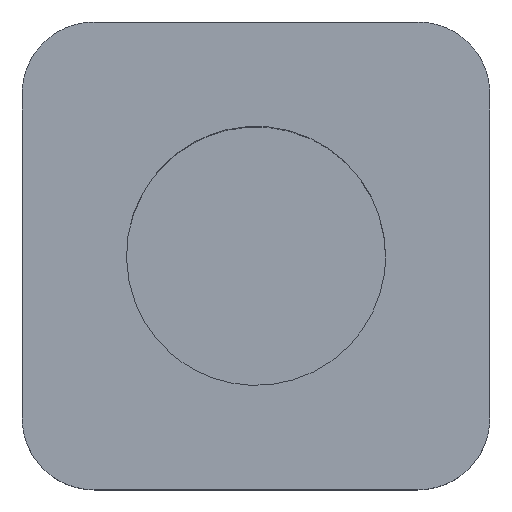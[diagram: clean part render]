
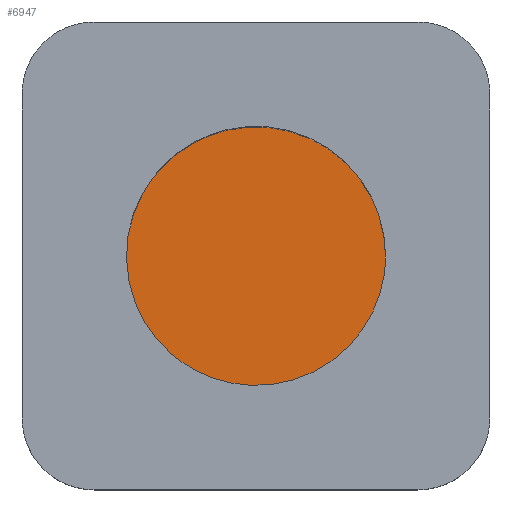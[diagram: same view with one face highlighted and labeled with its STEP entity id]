
A CAD part, top view. The second image highlights one B-rep face of the part: STEP entity #6947.
In plain terms, the highlighted free-form (B-spline) face has degree [1, 1] with [2, 2] control points.
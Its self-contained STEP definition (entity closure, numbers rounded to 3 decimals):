
#4521 = ( BOUNDED_SURFACE() B_SPLINE_SURFACE(2,1,(
    (#4522,#4523)
    ,(#4524,#4525)
    ,(#4526,#4527)
    ,(#4528,#4529)
    ,(#4530,#4531)
    ,(#4532,#4533)
    ,(#4534,#4535
)),.UNSPECIFIED.,.T.,.F.,.F.) B_SPLINE_SURFACE_WITH_KNOTS((1,2,2,2,2,1),
  (2,2),(-2.094,0.,2.094,4.189,6.283,
    8.378),(0.,196.85),.UNSPECIFIED.) 
GEOMETRIC_REPRESENTATION_ITEM() RATIONAL_B_SPLINE_SURFACE((
    (1.,1.)
    ,(0.5,0.5)
    ,(1.,1.)
    ,(0.5,0.5)
    ,(1.,1.)
    ,(0.5,0.5)
,(1.,1.))) REPRESENTATION_ITEM('') SURFACE() );
#4522 = CARTESIAN_POINT('',(14.199,-15.005,
    30.));
#4523 = CARTESIAN_POINT('',(14.199,-15.005,
    35.));
#4524 = CARTESIAN_POINT('',(14.199,-11.887,
    30.));
#4525 = CARTESIAN_POINT('',(14.199,-11.887,
    35.));
#4526 = CARTESIAN_POINT('',(11.499,-13.446,
    30.));
#4527 = CARTESIAN_POINT('',(11.499,-13.446,
    35.));
#4528 = CARTESIAN_POINT('',(8.799,-15.005,
    30.));
#4529 = CARTESIAN_POINT('',(8.799,-15.005,
    35.));
#4530 = CARTESIAN_POINT('',(11.499,-16.564,
    30.));
#4531 = CARTESIAN_POINT('',(11.499,-16.564,
    35.));
#4532 = CARTESIAN_POINT('',(14.199,-18.123,
    30.));
#4533 = CARTESIAN_POINT('',(14.199,-18.123,
    35.));
#4534 = CARTESIAN_POINT('',(14.199,-15.005,
    30.));
#4535 = CARTESIAN_POINT('',(14.199,-15.005,
    35.));
#6832 = VERTEX_POINT('',#6833);
#6833 = CARTESIAN_POINT('',(14.199,-15.005,
    30.));
#6853 = EDGE_CURVE('',#6832,#6832,#6854,.T.);
#6854 = SURFACE_CURVE('',#6855,(#6863,#6874),.PCURVE_S1.);
#6855 = ( BOUNDED_CURVE() B_SPLINE_CURVE(2,(#6856,#6857,#6858,#6859,
#6860,#6861,#6862),.UNSPECIFIED.,.T.,.F.) B_SPLINE_CURVE_WITH_KNOTS((1,2
    ,2,2,2,1),(-2.094,0.,2.094,4.189,
6.283,8.378),.UNSPECIFIED.) CURVE() 
GEOMETRIC_REPRESENTATION_ITEM() RATIONAL_B_SPLINE_CURVE((1.,0.5,1.,0.5,
1.,0.5,1.)) REPRESENTATION_ITEM('') );
#6856 = CARTESIAN_POINT('',(14.199,-15.005,
    30.));
#6857 = CARTESIAN_POINT('',(14.199,-11.887,
    30.));
#6858 = CARTESIAN_POINT('',(11.499,-13.446,
    30.));
#6859 = CARTESIAN_POINT('',(8.799,-15.005,
    30.));
#6860 = CARTESIAN_POINT('',(11.499,-16.564,
    30.));
#6861 = CARTESIAN_POINT('',(14.199,-18.123,
    30.));
#6862 = CARTESIAN_POINT('',(14.199,-15.005,
    30.));
#6863 = PCURVE('',#4521,#6864);
#6864 = DEFINITIONAL_REPRESENTATION('',(#6865),#6873);
#6865 = B_SPLINE_CURVE_WITH_KNOTS('',2,(#6866,#6867,#6868,#6869,#6870,
    #6871,#6872),.UNSPECIFIED.,.F.,.F.,(3,2,2,3),(0.,2.094,
    4.189,6.283),.PIECEWISE_BEZIER_KNOTS.);
#6866 = CARTESIAN_POINT('',(0.,0.));
#6867 = CARTESIAN_POINT('',(1.047,0.));
#6868 = CARTESIAN_POINT('',(2.094,0.));
#6869 = CARTESIAN_POINT('',(3.142,0.));
#6870 = CARTESIAN_POINT('',(4.189,0.));
#6871 = CARTESIAN_POINT('',(5.236,0.));
#6872 = CARTESIAN_POINT('',(6.283,0.));
#6873 = ( GEOMETRIC_REPRESENTATION_CONTEXT(2) 
PARAMETRIC_REPRESENTATION_CONTEXT() REPRESENTATION_CONTEXT('2D SPACE',''
  ) );
#6874 = PCURVE('',#6875,#6880);
#6875 = B_SPLINE_SURFACE_WITH_KNOTS('',1,1,(
    (#6876,#6877)
    ,(#6878,#6879
    )),.UNSPECIFIED.,.F.,.F.,.F.,(2,2),(2,2),(-70.866,70.866),(
    -70.866,70.866),.PIECEWISE_BEZIER_KNOTS.);
#6876 = CARTESIAN_POINT('',(10.599,-16.805,
    30.));
#6877 = CARTESIAN_POINT('',(10.599,-13.205,
    30.));
#6878 = CARTESIAN_POINT('',(14.199,-16.805,
    30.));
#6879 = CARTESIAN_POINT('',(14.199,-13.205,
    30.));
#6880 = DEFINITIONAL_REPRESENTATION('',(#6881),#6889);
#6881 = ( BOUNDED_CURVE() B_SPLINE_CURVE(2,(#6882,#6883,#6884,#6885,
#6886,#6887,#6888),.UNSPECIFIED.,.T.,.F.) B_SPLINE_CURVE_WITH_KNOTS((3,2
    ,2,3),(0.,2.094,4.189,6.283),
.PIECEWISE_BEZIER_KNOTS.) CURVE() GEOMETRIC_REPRESENTATION_ITEM() 
RATIONAL_B_SPLINE_CURVE((1.,0.5,1.,0.5,1.,0.5,1.)) REPRESENTATION_ITEM(
  '') );
#6882 = CARTESIAN_POINT('',(70.866,0.));
#6883 = CARTESIAN_POINT('',(70.866,122.744));
#6884 = CARTESIAN_POINT('',(-35.433,61.372));
#6885 = CARTESIAN_POINT('',(-141.732,0.));
#6886 = CARTESIAN_POINT('',(-35.433,-61.372));
#6887 = CARTESIAN_POINT('',(70.866,-122.744));
#6888 = CARTESIAN_POINT('',(70.866,0.));
#6889 = ( GEOMETRIC_REPRESENTATION_CONTEXT(2) 
PARAMETRIC_REPRESENTATION_CONTEXT() REPRESENTATION_CONTEXT('2D SPACE',''
  ) );
#6947 = ADVANCED_FACE('',(#6948),#6875,.T.);
#6948 = FACE_BOUND('',#6949,.F.);
#6949 = EDGE_LOOP('',(#6950));
#6950 = ORIENTED_EDGE('',*,*,#6853,.F.);
